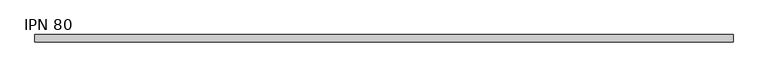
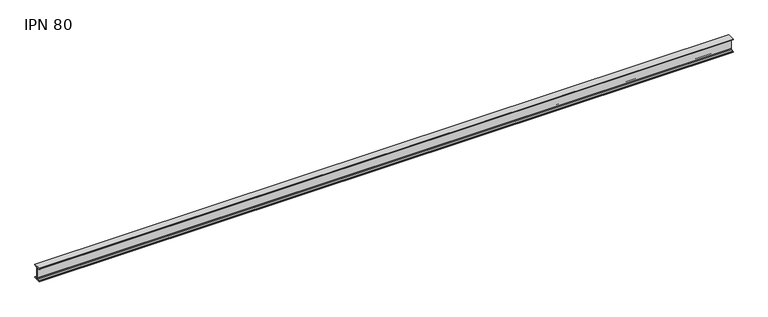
"""IFC4 building model written with IfcOpenShell, lengths in millimetres: beam geometry, IPN - Secciones en I con alas cónicas : IPN 80."""

from ifc_helpers import new_model, si_unit, point, frame, frame_2d, origin, place, context, project, spatial, polyline, circle_curve, trimmed, segment, composite_curve, outline, extrude, source, transform, mapped, element, save


def ipn_80_8b3ddc1d(model_context):
    return source(origin(), model_context, "Body", "SweptSolid", [
        extrude(outline(composite_curve([segment(polyline([(21.0, 40.0), (21.0, 37.5704306)]), True, "CONTINUOUS"), segment(trimmed(circle_curve(frame_2d((18.7, 37.5704306)), 2.3), [point((21.0, 37.5704306))], [point((19.01889, 35.2926446))], False, "CARTESIAN"), True, "CONTINUOUS"), segment(polyline([(19.01889, 35.2926446), (5.3092734, 33.3732983)]), True, "CONTINUOUS"), segment(trimmed(circle_curve(frame_2d((5.85, 29.5109655)), 3.9), [point((5.3092734, 33.3732983))], [point((1.95, 29.5109655))], True, "CARTESIAN"), True, "CONTINUOUS"), segment(polyline([(1.95, 29.5109655), (1.95, -29.5109655)]), True, "CONTINUOUS"), segment(trimmed(circle_curve(frame_2d((5.85, -29.5109655)), 3.9), [point((1.95, -29.5109655))], [point((5.3092734, -33.3732983))], True, "CARTESIAN"), True, "CONTINUOUS"), segment(polyline([(5.3092734, -33.3732983), (19.01889, -35.2926446)]), True, "CONTINUOUS"), segment(trimmed(circle_curve(frame_2d((18.7, -37.5704306)), 2.3), [point((19.01889, -35.2926446))], [point((21.0, -37.5704306))], False, "CARTESIAN"), True, "CONTINUOUS"), segment(polyline([(21.0, -37.5704306), (21.0, -40.0), (-21.0, -40.0), (-21.0, -37.5704306)]), True, "CONTINUOUS"), segment(trimmed(circle_curve(frame_2d((-18.7, -37.5704306)), 2.3), [point((-21.0, -37.5704306))], [point((-19.01889, -35.2926446))], False, "CARTESIAN"), True, "CONTINUOUS"), segment(polyline([(-19.01889, -35.2926446), (-5.3092734, -33.3732983)]), True, "CONTINUOUS"), segment(trimmed(circle_curve(frame_2d((-5.85, -29.5109655)), 3.9), [point((-5.3092734, -33.3732983))], [point((-1.95, -29.5109655))], True, "CARTESIAN"), True, "CONTINUOUS"), segment(polyline([(-1.95, -29.5109655), (-1.95, 29.5109655)]), True, "CONTINUOUS"), segment(trimmed(circle_curve(frame_2d((-5.85, 29.5109655)), 3.9), [point((-1.95, 29.5109655))], [point((-5.3092734, 33.3732983))], True, "CARTESIAN"), True, "CONTINUOUS"), segment(polyline([(-5.3092734, 33.3732983), (-19.01889, 35.2926446)]), True, "CONTINUOUS"), segment(trimmed(circle_curve(frame_2d((-18.7, 37.5704306)), 2.3), [point((-19.01889, 35.2926446))], [point((-21.0, 37.5704306))], False, "CARTESIAN"), True, "CONTINUOUS"), segment(polyline([(-21.0, 37.5704306), (-21.0, 40.0), (21.0, 40.0)]), True, "CONTINUOUS")], self_intersect=False)), frame((-1993.85, 0.0, 0.0), z_axis=(1.0, 0.0, 0.0), x_axis=(0.0, 1.0, 0.0)), (0.0, 0.0, 1.0), 3960.85),
    ])


if __name__ == "__main__":
    model = new_model("IFC4")
    model_context = context("Model", 3, world=origin())
    ifc_project = project(units=[si_unit("LENGTHUNIT", "METRE", prefix="MILLI")], contexts=[model_context])
    site = spatial("IfcSite", under=ifc_project)
    building = spatial("IfcBuilding", under=site)
    placement = place(None, origin())
    ipn_80_shape = ipn_80_8b3ddc1d(model_context)
    element("IfcBeam", 1, ObjectType="IPN - Secciones en I con alas cónicas : IPN 80", at=placement, inside=building, context=model_context, shape_type="MappedRepresentation", body=[
        mapped(ipn_80_shape, transform((0.0, 0.0, 0.0), x_axis=(1.0, 0.0, 0.0), y_axis=(0.0, 1.0, 0.0), z_axis=(0.0, 0.0, 1.0))),
    ])
    save(model, "model.ifc")
